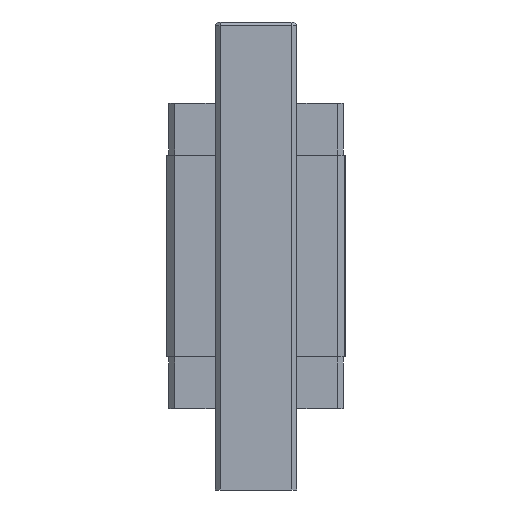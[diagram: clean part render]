
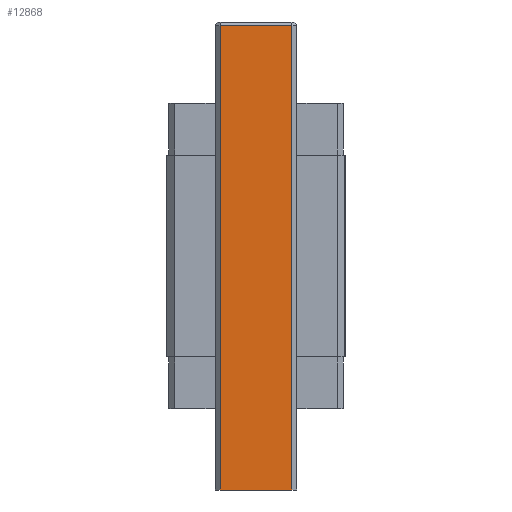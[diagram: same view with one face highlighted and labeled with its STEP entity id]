
A CAD part, front view. The second image highlights one B-rep face of the part: STEP entity #12868.
In plain terms, the highlighted planar face has unit normal (0, -1, 0).
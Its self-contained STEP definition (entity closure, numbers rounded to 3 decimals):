
#11829=DIRECTION('',(1.,0.,0.));
#11830=VECTOR('',#11829,17.6);
#11831=CARTESIAN_POINT('',(-8.8,-12.4,-57.5));
#11832=LINE('',#11831,#11830);
#12102=DIRECTION('',(1.,0.,0.));
#12103=VECTOR('',#12102,17.6);
#12104=CARTESIAN_POINT('',(-8.8,-12.4,56.634));
#12105=LINE('',#12104,#12103);
#12106=DIRECTION('',(0.,0.,1.));
#12107=VECTOR('',#12106,114.134);
#12108=CARTESIAN_POINT('',(-8.8,-12.4,-57.5));
#12109=LINE('',#12108,#12107);
#12114=DIRECTION('',(0.,0.,1.));
#12115=VECTOR('',#12114,114.134);
#12116=CARTESIAN_POINT('',(8.8,-12.4,-57.5));
#12117=LINE('',#12116,#12115);
#12300=CARTESIAN_POINT('',(-8.8,-12.4,-57.5));
#12301=VERTEX_POINT('',#12300);
#12302=CARTESIAN_POINT('',(8.8,-12.4,-57.5));
#12303=VERTEX_POINT('',#12302);
#12364=CARTESIAN_POINT('',(8.8,-12.4,56.634));
#12365=VERTEX_POINT('',#12364);
#12368=CARTESIAN_POINT('',(-8.8,-12.4,56.634));
#12369=VERTEX_POINT('',#12368);
#12856=CARTESIAN_POINT('',(-8.8,-12.4,-57.5));
#12857=DIRECTION('',(0.,-1.,0.));
#12858=DIRECTION('',(1.,0.,0.));
#12859=AXIS2_PLACEMENT_3D('',#12856,#12857,#12858);
#12860=PLANE('',#12859);
#12861=ORIENTED_EDGE('',*,*,#12847,.T.);
#12863=ORIENTED_EDGE('',*,*,#12862,.F.);
#12864=ORIENTED_EDGE('',*,*,#12449,.F.);
#12865=ORIENTED_EDGE('',*,*,#12822,.T.);
#12866=EDGE_LOOP('',(#12861,#12863,#12864,#12865));
#12867=FACE_OUTER_BOUND('',#12866,.F.);
#12449=EDGE_CURVE('',#12301,#12303,#11832,.T.);
#12822=EDGE_CURVE('',#12301,#12369,#12109,.T.);
#12847=EDGE_CURVE('',#12369,#12365,#12105,.T.);
#12862=EDGE_CURVE('',#12303,#12365,#12117,.T.);
#12868=ADVANCED_FACE('',(#12867),#12860,.T.);
